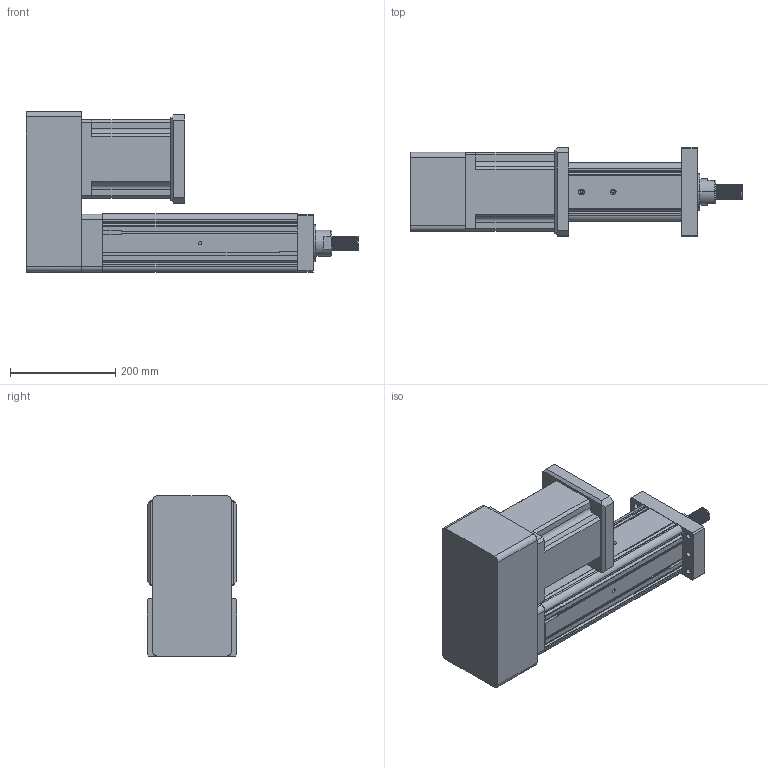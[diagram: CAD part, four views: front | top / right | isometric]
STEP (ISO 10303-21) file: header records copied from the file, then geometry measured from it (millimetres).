
FILE_DESCRIPTION (( 'STEP AP203' ), '1' );
FILE_NAME ('YRJ110-L200-H3K1.STEP', '2020-01-04T06:31:19', ( 'User' ), ( 'China' ), 'SwSTEP 2.0', 'SolidWorks 2016', '' );
FILE_SCHEMA (( 'CONFIG_CONTROL_DESIGN' ));
Length unit declared in the file: millimetre
Products named in the file (7): H3-110-1; H3-110-2; K1-110; YRJ110-L200-H3K1; 095-100俴最倰第; 萇儂碟-110; 142熬厒儂
Assembly tree (6 placements, depth 2):
  YRJ110-L200-H3K1
    095-100俴最倰第
    萇儂碟-110
    142熬厒儂
    H3-110-1
    H3-110-2
    K1-110
Bounding box: 631 x 170 x 305.5 mm (x, y, z)
Volume: 11514140 mm3; surface area: 832248.2 mm2
Topology: 6 solids, 6 shells, 359 faces, 1001 edges, 648 vertices
Faces by surface type: plane 168, cylinder 160, cone 27, bspline 4
Entity records: 20190 total; most frequent: CARTESIAN_POINT 10350, ORIENTED_EDGE 1970, DIRECTION 1827, EDGE_CURVE 985, VERTEX_POINT 648, LINE 617, VECTOR 617, AXIS2_PLACEMENT_3D 605
